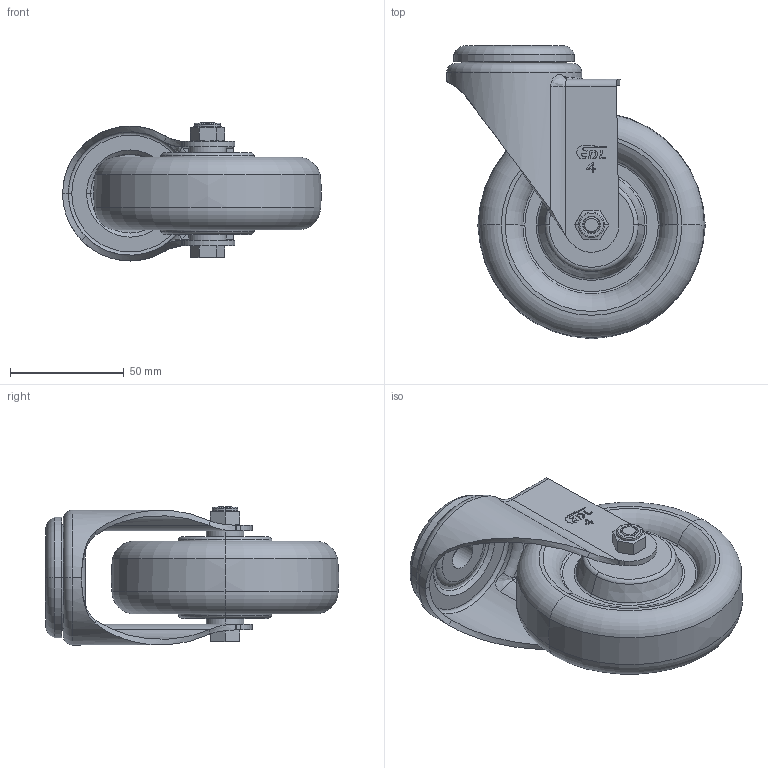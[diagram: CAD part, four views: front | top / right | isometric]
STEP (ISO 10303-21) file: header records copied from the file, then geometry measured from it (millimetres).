
FILE_DESCRIPTION((''),'2;1');
FILE_NAME('S54774_ASM','2021-08-10T',('lenovo'),(''),'PRO/ENGINEER BY PARAMETRIC TECHNOLOGY CORPORATION, 2010280','PRO/ENGINEER BY PARAMETRIC TECHNOLOGY CORPORATION, 2010280','');
FILE_SCHEMA(('CONFIG_CONTROL_DESIGN'));
Length unit declared in the file: millimetre
Products named in the file (6): S544-11; S540-27; 504-986; S540-33; S540-34; S54774_ASM
Assembly tree (5 placements, depth 2):
  S54774_ASM
    S544-11
    S540-27
    504-986
    S540-33
    S540-34
Bounding box: 113.63 x 128.98 x 60.65 mm (x, y, z)
Volume: 256427.5 mm3; surface area: 57115.2 mm2
Topology: 5 solids, 5 shells, 228 faces, 527 edges, 324 vertices
Faces by surface type: plane 94, cylinder 46, torus 40, cone 36, bspline 12
Entity records: 8368 total; most frequent: CARTESIAN_POINT 3010, DIRECTION 1141, ORIENTED_EDGE 1054, EDGE_CURVE 527, AXIS2_PLACEMENT_3D 443, VERTEX_POINT 324, VECTOR 255, LINE 255
